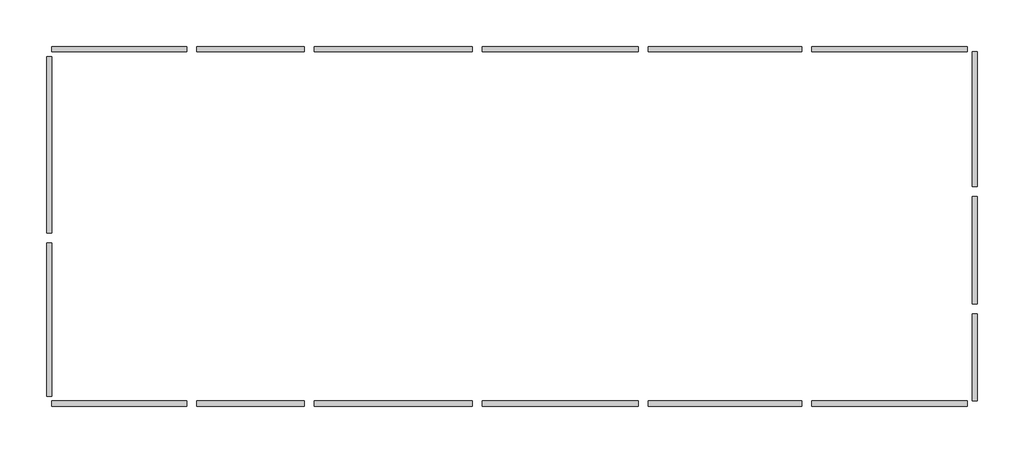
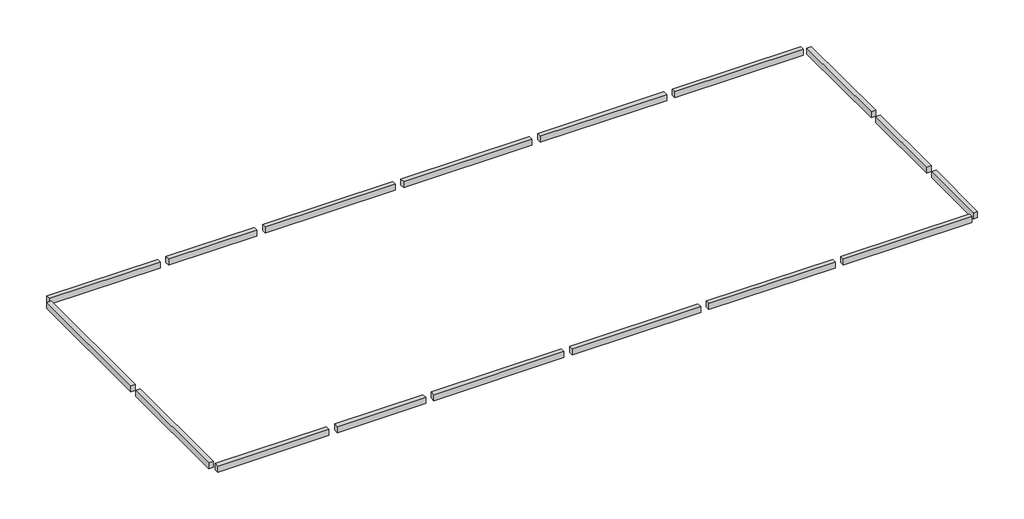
# One storey: 17 beams.
"""IFC4 building model written with IfcOpenShell, lengths in millimetres."""

from ifc_helpers import new_model, si_unit, frame, origin, place, context, project, spatial, polyline, outline, extrude, element, save

model = new_model("IFC4")

# Units and contexts
model_context = context("Model", 3, world=origin())
ifc_project = project(units=[si_unit("LENGTHUNIT", "METRE", prefix="MILLI")], contexts=[model_context])

# Site, building, storey
site = spatial("IfcSite", under=ifc_project)
building = spatial("IfcBuilding", under=site)
storey = spatial("IfcBuildingStorey", under=building, Name="NÍVEL 3", Elevation=4343.4413576)

# Beams
placement = place(None, origin())
element("IfcBeam", 1, ObjectType="Viga Retangular de Concreto : VIGA ESTRUTURAL 14X20-25MPA-CA50", at=placement, inside=storey, context=model_context, shape_type="SweptSolid", body=[
    extrude(outline(polyline([(5972.3574069, 17342.0719642), (5972.3574069, 17202.0719642), (2472.3574069, 17202.0719642), (2472.3574069, 17342.0719642), (5972.3574069, 17342.0719642)])), frame((0.0, 0.0, 4143.4413576), z_axis=(0.0, 0.0, 1.0), x_axis=(1.0, 0.0, 0.0)), (0.0, 0.0, 1.0), 200.0),
])
element("IfcBeam", 2, ObjectType="Viga Retangular de Concreto : VIGA ESTRUTURAL 14X20-25MPA-CA50", at=placement, inside=storey, context=model_context, shape_type="SweptSolid", body=[
    extrude(outline(polyline([(9012.3574069, 17342.0719642), (9012.3574069, 17202.0719642), (6232.3574069, 17202.0719642), (6232.3574069, 17342.0719642), (9012.3574069, 17342.0719642)])), frame((0.0, 0.0, 4143.4413576), z_axis=(0.0, 0.0, 1.0), x_axis=(1.0, 0.0, 0.0)), (0.0, 0.0, 1.0), 200.0),
])
element("IfcBeam", 3, ObjectType="Viga Retangular de Concreto : VIGA ESTRUTURAL 14X20-25MPA-CA50", at=placement, inside=storey, context=model_context, shape_type="SweptSolid", body=[
    extrude(outline(polyline([(13372.3574069, 17342.0719642), (13372.3574069, 17202.0719642), (9272.3574069, 17202.0719642), (9272.3574069, 17342.0719642), (13372.3574069, 17342.0719642)])), frame((0.0, 0.0, 4143.4413576), z_axis=(0.0, 0.0, 1.0), x_axis=(1.0, 0.0, 0.0)), (0.0, 0.0, 1.0), 200.0),
])
element("IfcBeam", 4, ObjectType="Viga Retangular de Concreto : VIGA ESTRUTURAL 14X20-25MPA-CA50", at=placement, inside=storey, context=model_context, shape_type="SweptSolid", body=[
    extrude(outline(polyline([(17672.3574069, 17342.0719642), (17672.3574069, 17202.0719642), (13632.3574069, 17202.0719642), (13632.3574069, 17342.0719642), (17672.3574069, 17342.0719642)])), frame((0.0, 0.0, 4143.4413576), z_axis=(0.0, 0.0, 1.0), x_axis=(1.0, 0.0, 0.0)), (0.0, 0.0, 1.0), 200.0),
])
element("IfcBeam", 5, ObjectType="Viga Retangular de Concreto : VIGA ESTRUTURAL 14X20-25MPA-CA50", at=placement, inside=storey, context=model_context, shape_type="SweptSolid", body=[
    extrude(outline(polyline([(21912.3574069, 17342.0719642), (21912.3574069, 17202.0719642), (17932.3574069, 17202.0719642), (17932.3574069, 17342.0719642), (21912.3574069, 17342.0719642)])), frame((0.0, 0.0, 4143.4413576), z_axis=(0.0, 0.0, 1.0), x_axis=(1.0, 0.0, 0.0)), (0.0, 0.0, 1.0), 200.0),
])
element("IfcBeam", 6, ObjectType="Viga Retangular de Concreto : VIGA ESTRUTURAL 14X20-25MPA-CA50", at=placement, inside=storey, context=model_context, shape_type="SweptSolid", body=[
    extrude(outline(polyline([(22172.3574069, 17202.0719642), (22172.3574069, 17342.0719642), (26212.3574069, 17342.0719642), (26212.3574069, 17202.0719642), (22172.3574069, 17202.0719642)])), frame((0.0, 0.0, 4143.4413576), z_axis=(0.0, 0.0, 1.0), x_axis=(1.0, 0.0, 0.0)), (0.0, 0.0, 1.0), 200.0),
])
element("IfcBeam", 7, ObjectType="Viga Retangular de Concreto : VIGA ESTRUTURAL 14X20-25MPA-CA50", at=placement, inside=storey, context=model_context, shape_type="SweptSolid", body=[
    extrude(outline(polyline([(26472.3574069, 13702.0719642), (26332.3574069, 13702.0719642), (26332.3574069, 17202.0719642), (26472.3574069, 17202.0719642), (26472.3574069, 13702.0719642)])), frame((0.0, 0.0, 4143.4413576), z_axis=(0.0, 0.0, 1.0), x_axis=(1.0, 0.0, 0.0)), (0.0, 0.0, 1.0), 200.0),
])
element("IfcBeam", 8, ObjectType="Viga Retangular de Concreto : VIGA ESTRUTURAL 14X20-25MPA-CA50", at=placement, inside=storey, context=model_context, shape_type="SweptSolid", body=[
    extrude(outline(polyline([(26472.3574069, 10662.0719642), (26332.3574069, 10662.0719642), (26332.3574069, 13442.0719642), (26472.3574069, 13442.0719642), (26472.3574069, 10662.0719642)])), frame((0.0, 0.0, 4143.4413576), z_axis=(0.0, 0.0, 1.0), x_axis=(1.0, 0.0, 0.0)), (0.0, 0.0, 1.0), 200.0),
])
element("IfcBeam", 9, ObjectType="Viga Retangular de Concreto : VIGA ESTRUTURAL 14X20-25MPA-CA50", at=placement, inside=storey, context=model_context, shape_type="SweptSolid", body=[
    extrude(outline(polyline([(26472.3574069, 8142.0719642), (26332.3574069, 8142.0719642), (26332.3574069, 10402.0719642), (26472.3574069, 10402.0719642), (26472.3574069, 8142.0719642)])), frame((0.0, 0.0, 4143.4413576), z_axis=(0.0, 0.0, 1.0), x_axis=(1.0, 0.0, 0.0)), (0.0, 0.0, 1.0), 200.0),
])
element("IfcBeam", 10, ObjectType="Viga Retangular de Concreto : VIGA ESTRUTURAL 14X20-25MPA-CA50", at=placement, inside=storey, context=model_context, shape_type="SweptSolid", body=[
    extrude(outline(polyline([(22172.3574069, 8002.0719642), (22172.3574069, 8142.0719642), (26212.3574069, 8142.0719642), (26212.3574069, 8002.0719642), (22172.3574069, 8002.0719642)])), frame((0.0, 0.0, 4143.4413576), z_axis=(0.0, 0.0, 1.0), x_axis=(1.0, 0.0, 0.0)), (0.0, 0.0, 1.0), 200.0),
])
element("IfcBeam", 11, ObjectType="Viga Retangular de Concreto : VIGA ESTRUTURAL 14X20-25MPA-CA50", at=placement, inside=storey, context=model_context, shape_type="SweptSolid", body=[
    extrude(outline(polyline([(17932.3574069, 8002.0719642), (17932.3574069, 8142.0719642), (21912.3574069, 8142.0719642), (21912.3574069, 8002.0719642), (17932.3574069, 8002.0719642)])), frame((0.0, 0.0, 4143.4413576), z_axis=(0.0, 0.0, 1.0), x_axis=(1.0, 0.0, 0.0)), (0.0, 0.0, 1.0), 200.0),
])
element("IfcBeam", 12, ObjectType="Viga Retangular de Concreto : VIGA ESTRUTURAL 14X20-25MPA-CA50", at=placement, inside=storey, context=model_context, shape_type="SweptSolid", body=[
    extrude(outline(polyline([(13632.3574069, 8002.0719642), (13632.3574069, 8142.0719642), (17672.3574069, 8142.0719642), (17672.3574069, 8002.0719642), (13632.3574069, 8002.0719642)])), frame((0.0, 0.0, 4143.4413576), z_axis=(0.0, 0.0, 1.0), x_axis=(1.0, 0.0, 0.0)), (0.0, 0.0, 1.0), 200.0),
])
element("IfcBeam", 13, ObjectType="Viga Retangular de Concreto : VIGA ESTRUTURAL 14X20-25MPA-CA50", at=placement, inside=storey, context=model_context, shape_type="SweptSolid", body=[
    extrude(outline(polyline([(9272.3574069, 8002.0719642), (9272.3574069, 8142.0719642), (13372.3574069, 8142.0719642), (13372.3574069, 8002.0719642), (9272.3574069, 8002.0719642)])), frame((0.0, 0.0, 4143.4413576), z_axis=(0.0, 0.0, 1.0), x_axis=(1.0, 0.0, 0.0)), (0.0, 0.0, 1.0), 200.0),
])
element("IfcBeam", 14, ObjectType="Viga Retangular de Concreto : VIGA ESTRUTURAL 14X20-25MPA-CA50", at=placement, inside=storey, context=model_context, shape_type="SweptSolid", body=[
    extrude(outline(polyline([(6232.3574069, 8002.0719642), (6232.3574069, 8142.0719642), (9012.3574069, 8142.0719642), (9012.3574069, 8002.0719642), (6232.3574069, 8002.0719642)])), frame((0.0, 0.0, 4143.4413576), z_axis=(0.0, 0.0, 1.0), x_axis=(1.0, 0.0, 0.0)), (0.0, 0.0, 1.0), 200.0),
])
element("IfcBeam", 15, ObjectType="Viga Retangular de Concreto : VIGA ESTRUTURAL 14X20-25MPA-CA50", at=placement, inside=storey, context=model_context, shape_type="SweptSolid", body=[
    extrude(outline(polyline([(5972.3574069, 8142.0719642), (5972.3574069, 8002.0719642), (2472.3574069, 8002.0719642), (2472.3574069, 8142.0719642), (5972.3574069, 8142.0719642)])), frame((0.0, 0.0, 4143.4413576), z_axis=(0.0, 0.0, 1.0), x_axis=(1.0, 0.0, 0.0)), (0.0, 0.0, 1.0), 200.0),
])
element("IfcBeam", 16, ObjectType="Viga Retangular de Concreto : VIGA ESTRUTURAL 14X20-25MPA-CA50", at=placement, inside=storey, context=model_context, shape_type="SweptSolid", body=[
    extrude(outline(polyline([(2332.3574069, 12242.0719642), (2472.3574069, 12242.0719642), (2472.3574069, 8262.0719642), (2332.3574069, 8262.0719642), (2332.3574069, 12242.0719642)])), frame((0.0, 0.0, 4143.4413576), z_axis=(0.0, 0.0, 1.0), x_axis=(1.0, 0.0, 0.0)), (0.0, 0.0, 1.0), 200.0),
])
element("IfcBeam", 17, ObjectType="Viga Retangular de Concreto : VIGA ESTRUTURAL 14X20-25MPA-CA50", at=placement, inside=storey, context=model_context, shape_type="SweptSolid", body=[
    extrude(outline(polyline([(2332.3574069, 17082.0719642), (2472.3574069, 17082.0719642), (2472.3574069, 12502.0719642), (2332.3574069, 12502.0719642), (2332.3574069, 17082.0719642)])), frame((0.0, 0.0, 4143.4413576), z_axis=(0.0, 0.0, 1.0), x_axis=(1.0, 0.0, 0.0)), (0.0, 0.0, 1.0), 200.0),
])

save(model, "model.ifc")
